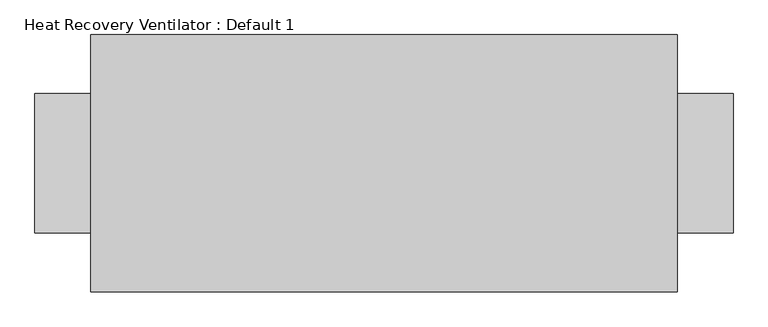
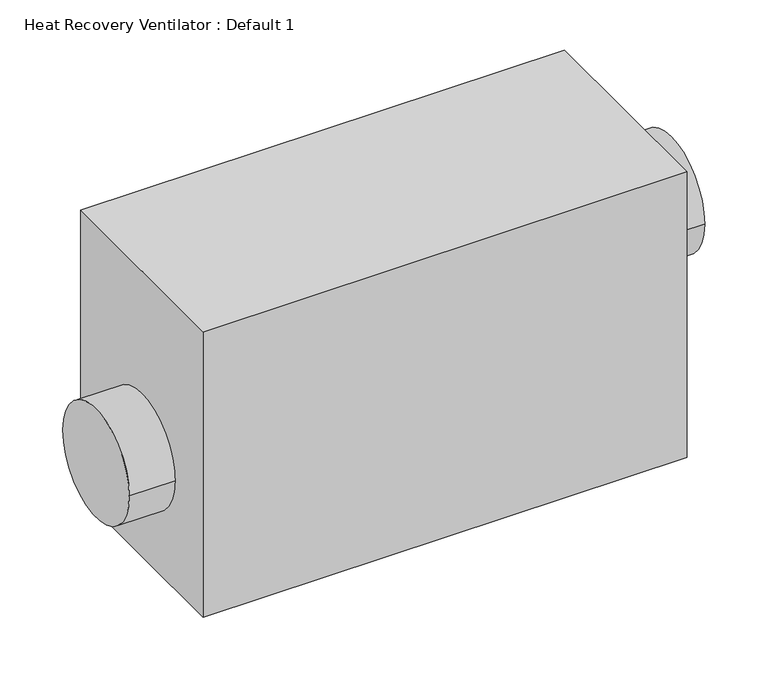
"""IFC4 building model written with IfcOpenShell, lengths in millimetres: proxy geometry, Heat Recovery Ventilator : Default 1."""

from ifc_helpers import new_model, si_unit, point, frame, frame_2d, origin, place, context, project, spatial, polyline, circle_curve, trimmed, segment, composite_curve, outline, extrude, source, transform, mapped, element, save


def heat_recovery_ventilator_default_1_1910ae9e(model_context):
    return source(origin(), model_context, "Body", "SweptSolid", [
        extrude(outline(composite_curve([segment(trimmed(circle_curve(frame_2d((314.325, 1422.4)), 101.6), [point((212.725, 1422.4))], [point((415.925, 1422.4))], False, "CARTESIAN"), True, "CONTINUOUS"), segment(trimmed(circle_curve(frame_2d((314.325, 1422.4)), 101.6), [point((415.925, 1422.4))], [point((212.725, 1422.4))], False, "CARTESIAN"), True, "CONTINUOUS")], self_intersect=False)), frame((-383.0, 0.0, 0.0), z_axis=(1.0, 0.0, 0.0), x_axis=(0.0, 1.0, 0.0)), (0.0, 0.0, 1.0), 80.9625),
        extrude(outline(composite_curve([segment(trimmed(circle_curve(frame_2d((314.325, 1574.8)), 101.6), [point((212.725, 1574.8))], [point((415.925, 1574.8))], False, "CARTESIAN"), True, "CONTINUOUS"), segment(trimmed(circle_curve(frame_2d((314.325, 1574.8)), 101.6), [point((415.925, 1574.8))], [point((212.725, 1574.8))], False, "CARTESIAN"), True, "CONTINUOUS")], self_intersect=False)), frame((552.0375, 0.0, 0.0), z_axis=(1.0, 0.0, 0.0), x_axis=(0.0, 1.0, 0.0)), (0.0, 0.0, 1.0), 80.9625),
        extrude(outline(composite_curve([segment(trimmed(circle_curve(frame_2d((348.8375, 314.325)), 101.6), [point((450.4375, 314.325))], [point((247.2375, 314.325))], False, "CARTESIAN"), True, "CONTINUOUS"), segment(trimmed(circle_curve(frame_2d((348.8375, 314.325)), 101.6), [point((247.2375, 314.325))], [point((450.4375, 314.325))], False, "CARTESIAN"), True, "CONTINUOUS")], self_intersect=False)), frame((0.0, 0.0, 1168.4), z_axis=(0.0, 0.0, 1.0), x_axis=(1.0, 0.0, 0.0)), (0.0, 0.0, 1.0), 50.8),
        extrude(outline(composite_curve([segment(trimmed(circle_curve(frame_2d((-98.8375, 314.325)), 101.6), [point((-200.4375, 314.325))], [point((2.7625, 314.325))], False, "CARTESIAN"), True, "CONTINUOUS"), segment(trimmed(circle_curve(frame_2d((-98.8375, 314.325)), 101.6), [point((2.7625, 314.325))], [point((-200.4375, 314.325))], False, "CARTESIAN"), True, "CONTINUOUS")], self_intersect=False)), frame((0.0, 0.0, 1168.4), z_axis=(0.0, 0.0, 1.0), x_axis=(1.0, 0.0, 0.0)), (0.0, 0.0, 1.0), 50.8),
        extrude(outline(polyline([(552.0375, 501.65), (552.0375, 127.0), (-302.0375, 127.0), (-302.0375, 501.65), (552.0375, 501.65)])), frame((0.0, 0.0, 1219.2), z_axis=(0.0, 0.0, 1.0), x_axis=(1.0, 0.0, 0.0)), (0.0, 0.0, 1.0), 533.4),
    ])


if __name__ == "__main__":
    model = new_model("IFC4")
    model_context = context("Model", 3, world=origin())
    ifc_project = project(units=[si_unit("LENGTHUNIT", "METRE", prefix="MILLI")], contexts=[model_context])
    site = spatial("IfcSite", under=ifc_project)
    building = spatial("IfcBuilding", under=site)
    placement = place(None, origin())
    heat_recovery_ventilator_default_1_shape = heat_recovery_ventilator_default_1_1910ae9e(model_context)
    element("IfcBuildingElementProxy", 1, Name="Heat Recovery Ventilator : Default 1", ObjectType="Heat Recovery Ventilator : Default 1", at=placement, inside=building, context=model_context, shape_type="MappedRepresentation", body=[
        mapped(heat_recovery_ventilator_default_1_shape, transform((0.0, 0.0, 0.0), x_axis=(1.0, 0.0, 0.0), y_axis=(0.0, 1.0, 0.0), z_axis=(0.0, 0.0, 1.0))),
    ])
    save(model, "model.ifc")
